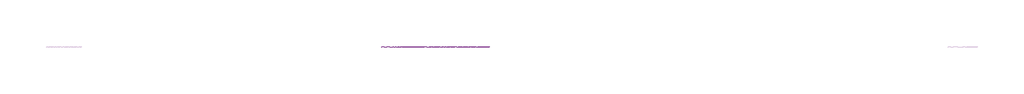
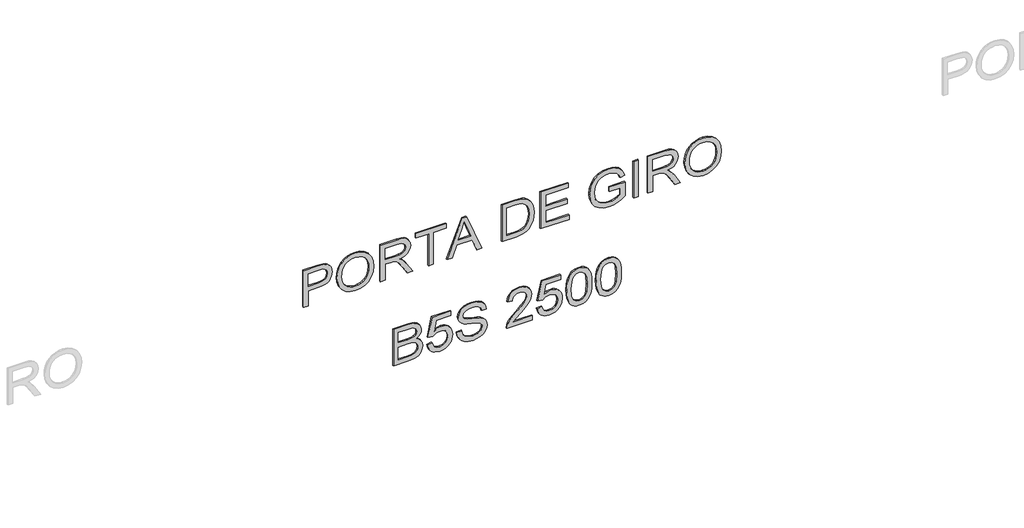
# One storey, part 4 of 13: 1 proxy.
"""IFC4 building model written with IfcOpenShell, lengths in millimetres."""

from ifc_helpers import new_model, si_unit, frame, origin, place, context, project, spatial, polyline, outline, extrude, element, save

model = new_model("IFC4")

# Units and contexts
model_context = context("Model", 3, world=origin())
ifc_project = project(units=[si_unit("LENGTHUNIT", "METRE", prefix="MILLI")], contexts=[model_context])

# Site, building, storey
site = spatial("IfcSite", under=ifc_project)
building = spatial("IfcBuilding", under=site)
storey = spatial("IfcBuildingStorey", under=building, Name="02 - Marelli - Planta Baixa - Portas", Elevation=-12000.0)

# Proxy
placement = place(None, origin())
element("IfcBuildingElementProxy", 1, Name="300mm Arial", ObjectType="300mm Arial", at=placement, inside=storey, context=model_context, shape_type="SweptSolid", body=[
    extrude(outline(polyline([(-6049.0625952, 17248.0968395), (-6049.0625952, 17285.7679558), (-5926.6314672, 17285.7679558), (-5926.6314672, 17362.3609872), (-5924.9668012, 17391.5593213), (-5919.9728031, 17415.8786204), (-5911.6494729, 17435.3188846), (-5899.9968107, 17449.8801138), (-5885.93912, 17460.4866116), (-5870.4007042, 17468.0626814), (-5853.3815634, 17472.6083233), (-5834.8816976, 17474.1235373), (-5813.4249802, 17471.8794571), (-5793.7892787, 17465.1472166), (-5777.1426184, 17454.7269591), (-5764.6530247, 17441.4188279), (-5755.9250244, 17424.8917293), (-5750.5631443, 17404.8145694), (-5747.6936647, 17359.7858132), (-5747.6936647, 17248.0968395), (-6049.0625952, 17248.0968395)]), holes=[polyline([(-5888.9603509, 17285.7679558), (-5785.364781, 17285.7679558), (-5785.364781, 17363.6853623), (-5787.939955, 17401.3564786), (-5794.2675253, 17415.5843148), (-5805.0096796, 17426.7771245), (-5819.283501, 17434.0335969), (-5836.2060728, 17436.452421), (-5858.4813276, 17432.3505367), (-5875.1279879, 17420.044884), (-5885.5022601, 17397.9719643), (-5888.9603509, 17364.5682791), (-5888.9603509, 17285.7679558)])]), frame((0.0, 8778.3159498, 0.0), z_axis=(0.0, 1.0, 0.0), x_axis=(0.0, 0.0, 1.0)), (0.0, 0.0, 1.0), 10.0),
    extrude(outline(polyline([(-5902.3512555, 17511.7946536), (-5940.8960916, 17516.0988729), (-5977.3623943, 17529.011531), (-6009.0554282, 17550.2751103), (-6033.2804576, 17579.6320935), (-6048.6487279, 17615.2798588), (-6053.7714847, 17655.4157845), (-6049.1361716, 17693.2248566), (-6035.2302322, 17728.3667842), (-6012.3111839, 17758.3307727), (-5980.6365441, 17780.6060275), (-5942.1744815, 17794.4291934), (-5898.8931648, 17799.0369154), (-5856.1820651, 17794.6591197), (-5818.2534314, 17781.5257325), (-5786.6339739, 17760.0414239), (-5762.8504029, 17730.6108643), (-5747.9511821, 17695.1654341), (-5742.9847752, 17655.6365137), (-5745.628927, 17625.3460299), (-5753.5613826, 17597.971011), (-5766.7821418, 17573.5114568), (-5785.2912046, 17551.9673675), (-5808.4723689, 17534.3918051), (-5835.7094321, 17521.8378321), (-5867.0023943, 17514.3054482), (-5902.3512555, 17511.7946536)]), holes=[polyline([(-5902.7191375, 17549.4657699), (-5872.1826326, 17551.4293401), (-5846.3504188, 17557.3200505), (-5825.222496, 17567.1379012), (-5808.7988641, 17580.8828923), (-5796.4863136, 17597.3502101), (-5787.6916347, 17615.3350411), (-5782.4148273, 17634.8373854), (-5780.6558915, 17655.8572429), (-5784.3071203, 17685.0210881), (-5795.2608067, 17711.1499068), (-5812.8547631, 17732.8089592), (-5836.426802, 17748.5635057), (-5865.2503563, 17758.1652258), (-5898.5988592, 17761.3657991), (-5925.1369466, 17759.4964987), (-5948.4652636, 17753.8885976), (-5968.5838102, 17744.5420956), (-5985.4925864, 17731.4569929), (-5998.883491, 17715.4748195), (-6008.4484229, 17697.4371054), (-6014.187382, 17677.3438507), (-6016.1003684, 17655.1950553), (-6014.2057761, 17633.4187405), (-6008.5219993, 17613.5600105), (-5999.0490379, 17595.6188655), (-5985.786892, 17579.5953053), (-5969.2276037, 17566.4136336), (-5949.8632152, 17556.9981538), (-5927.6937264, 17551.3488659), (-5902.7191375, 17549.4657699)])]), frame((0.0, 8778.3159498, 0.0), z_axis=(0.0, 1.0, 0.0), x_axis=(0.0, 0.0, 1.0)), (0.0, 0.0, 1.0), 10.0),
    extrude(outline(polyline([(-6049.0625952, 17850.8347003), (-6049.0625952, 17888.5058167), (-5917.2136881, 17888.5058167), (-5917.2136881, 17933.9760313), (-5918.5380633, 17955.8282218), (-5925.7117622, 17973.7440749), (-5945.2462961, 17993.6464909), (-5986.5962324, 18021.9734045), (-6049.0625952, 18061.1896252), (-6049.0625952, 18104.9675826), (-5967.3927923, 18054.7149021), (-5928.61803, 18024.1806965), (-5912.5047986, 18002.7699644), (-5902.5168024, 18039.8800606), (-5894.5015734, 18054.2619474), (-5884.4721905, 18065.8617265), (-5859.8608851, 18081.1748146), (-5830.1728081, 18086.2791773), (-5806.3064636, 18083.1981656), (-5784.5922289, 18073.9551304), (-5767.0810459, 18059.5525503), (-5755.8238568, 18040.9929037), (-5749.7262128, 18015.5998489), (-5747.6936647, 17980.6970446), (-5747.6936647, 17850.8347003), (-6049.0625952, 17850.8347003)]), holes=[polyline([(-5879.5425718, 17888.5058167), (-5785.364781, 17888.5058167), (-5785.364781, 17982.3157254), (-5788.6205367, 18012.1233641), (-5798.3878037, 18032.6787706), (-5813.195054, 18044.6257384), (-5831.5707596, 18048.608061), (-5844.8788908, 18046.5203306), (-5857.1385583, 18040.2571397), (-5867.2737073, 18029.9748379), (-5874.2082829, 18015.8297752), (-5878.2089996, 17997.0402023), (-5879.5425718, 17972.82437), (-5879.5425718, 17888.5058167)])]), frame((0.0, 8778.3159498, 0.0), z_axis=(0.0, 1.0, 0.0), x_axis=(0.0, 0.0, 1.0)), (0.0, 0.0, 1.0), 10.0),
    extrude(outline(polyline([(-6049.0625952, 18227.5458634), (-6049.0625952, 18265.2169797), (-5785.364781, 18265.2169797), (-5785.364781, 18364.10366), (-5747.6936647, 18364.10366), (-5747.6936647, 18128.6591831), (-5785.364781, 18128.6591831), (-5785.364781, 18227.5458634), (-6049.0625952, 18227.5458634)])), frame((0.0, 8778.3159498, 0.0), z_axis=(0.0, 1.0, 0.0), x_axis=(0.0, 0.0, 1.0)), (0.0, 0.0, 1.0), 10.0),
    extrude(outline(polyline([(-6049.0625952, 18371.3877235), (-6049.0625952, 18411.1925554), (-5954.8848044, 18445.6263102), (-5954.8848044, 18569.7496953), (-6049.0625952, 18604.2570265), (-6049.0625952, 18644.0618583), (-5747.6936647, 18523.7644459), (-5747.6936647, 18491.6851359), (-6049.0625952, 18371.3877235)]), holes=[polyline([(-5917.2136881, 18459.4586732), (-5836.6475312, 18488.9628092), (-5785.364781, 18507.7247909), (-5843.1222543, 18528.8412175), (-5917.2136881, 18555.9909087), (-5917.2136881, 18459.4586732)])]), frame((0.0, 8778.3159498, 0.0), z_axis=(0.0, 1.0, 0.0), x_axis=(0.0, 0.0, 1.0)), (0.0, 0.0, 1.0), 10.0),
    extrude(outline(polyline([(-6049.0625952, 18802.0303871), (-6049.0625952, 18910.9970341), (-6043.9122473, 18959.4470928), (-6037.5570858, 18978.9908238), (-6028.7922972, 18995.4627401), (-6016.9740882, 19009.810138), (-6001.458665, 19022.9803134), (-5981.8045694, 19034.4214434), (-5957.570343, 19043.5817051), (-5929.1054736, 19049.5965757), (-5896.7594492, 19051.6015326), (-5858.6836627, 19048.6400825), (-5825.0960365, 19039.7557324), (-5796.5483937, 19024.9116939), (-5773.5925572, 19004.0711788), (-5760.4039877, 18983.8008809), (-5752.0346723, 18959.7781866), (-5747.6936647, 18905.9938389), (-5747.6936647, 18802.0303871), (-6049.0625952, 18802.0303871)]), holes=[polyline([(-6011.3914789, 18839.7015034), (-5785.364781, 18839.7015034), (-5785.364781, 18905.3316513), (-5786.8730972, 18937.0798675), (-5791.3980458, 18958.748117), (-5803.97961, 18980.0392875), (-5824.8017309, 18997.8539731), (-5855.1152073, 19009.9113055), (-5896.170838, 19013.9304163), (-5927.155699, 19011.8794742), (-5953.155759, 19005.7266478), (-5974.2629885, 18995.8950015), (-5990.5693579, 18982.8075995), (-5999.3801317, 18970.6307055), (-6005.9468253, 18954.8485679), (-6010.0303155, 18933.9344764), (-6011.3914789, 18906.3617209), (-6011.3914789, 18839.7015034)])]), frame((0.0, 8778.3159498, 0.0), z_axis=(0.0, 1.0, 0.0), x_axis=(0.0, 0.0, 1.0)), (0.0, 0.0, 1.0), 10.0),
    extrude(outline(polyline([(-6049.0625952, 19103.3993175), (-6049.0625952, 19324.7171258), (-6011.3914789, 19324.7171258), (-6011.3914789, 19141.0704338), (-5912.5047986, 19141.0704338), (-5912.5047986, 19310.5904572), (-5874.8336823, 19310.5904572), (-5874.8336823, 19141.0704338), (-5785.364781, 19141.0704338), (-5785.364781, 19320.0082363), (-5747.6936647, 19320.0082363), (-5747.6936647, 19103.3993175), (-6049.0625952, 19103.3993175)])), frame((0.0, 8778.3159498, 0.0), z_axis=(0.0, 1.0, 0.0), x_axis=(0.0, 0.0, 1.0)), (0.0, 0.0, 1.0), 10.0),
    extrude(outline(polyline([(-5931.3403567, 19640.2127249), (-5931.3403567, 19724.9727366), (-5985.786892, 19724.9727366), (-5996.4278787, 19708.9238845), (-6006.4250719, 19686.8233737), (-6013.6815443, 19661.3751367), (-6016.1003684, 19635.2831062), (-6012.890598, 19605.7329849), (-6003.2612868, 19577.8567267), (-5987.0192967, 19554.0363675), (-5963.9714897, 19536.6539432), (-5934.3293979, 19526.0313506), (-5898.3045536, 19522.4904864), (-5867.586407, 19525.4335424), (-5839.1491287, 19534.2627103), (-5810.1232393, 19553.6500914), (-5798.1854686, 19568.0894597), (-5788.7860836, 19586.4651654), (-5782.6884395, 19608.694435), (-5780.6558915, 19634.694495), (-5782.5412867, 19656.9053704), (-5788.1974724, 19677.0377126), (-5796.9898521, 19693.9234962), (-5808.2838293, 19706.3946958), (-5823.2658236, 19715.8216719), (-5843.1222543, 19723.574785), (-5833.3365932, 19758.3028453), (-5805.4971232, 19748.7103223), (-5783.4885829, 19735.5309498), (-5766.4924347, 19717.7162642), (-5753.6901413, 19694.2178018), (-5745.6611167, 19666.3139524), (-5742.9847752, 19635.2831062), (-5747.6016942, 19593.0134649), (-5761.4524514, 19555.967748), (-5784.803761, 19525.553104), (-5817.9223376, 19503.1766817), (-5857.4052727, 19489.408698), (-5899.8496579, 19484.8193701), (-5941.9905405, 19489.4270921), (-5979.9743565, 19503.2502581), (-6011.6397992, 19526.1141241), (-6034.825562, 19557.8439462), (-6049.035004, 19596.0392943), (-6053.7714847, 19638.2997385), (-6050.7916406, 19670.6457629), (-6041.8521081, 19702.2008411), (-6027.0080696, 19732.8913965), (-6006.3147073, 19762.6438529), (-5893.6692404, 19762.6438529), (-5893.6692404, 19640.2127249), (-5931.3403567, 19640.2127249)])), frame((0.0, 8778.3159498, 0.0), z_axis=(0.0, 1.0, 0.0), x_axis=(0.0, 0.0, 1.0)), (0.0, 0.0, 1.0), 10.0),
    extrude(outline(polyline([(19866.2394227, 8778.3159498), (19828.5683064, 8778.3159498), (19828.5683064, 8788.3159498), (19866.2394227, 8788.3159498), (19866.2394227, 8778.3159498)])), frame((0.0, 0.0, -6049.0625952), z_axis=(0.0, 0.0, 1.0), x_axis=(1.0, 0.0, 0.0)), (0.0, 0.0, 1.0), 301.3689304),
    extrude(outline(polyline([(-6049.0625952, 19941.5816553), (-6049.0625952, 19979.2527716), (-5917.2136881, 19979.2527716), (-5917.2136881, 20024.7229862), (-5918.5380633, 20046.5751768), (-5925.7117622, 20064.4910299), (-5945.2462961, 20084.3934459), (-5986.5962324, 20112.7203595), (-6049.0625952, 20151.9365802), (-6049.0625952, 20195.7145376), (-5967.3927923, 20145.4618571), (-5928.61803, 20114.9276515), (-5912.5047986, 20093.5169193), (-5902.5168024, 20130.6270156), (-5894.5015734, 20145.0089024), (-5884.4721905, 20156.6086815), (-5859.8608851, 20171.9217696), (-5830.1728081, 20177.0261323), (-5806.3064636, 20173.9451205), (-5784.5922289, 20164.7020854), (-5767.0810459, 20150.2995053), (-5755.8238568, 20131.7398586), (-5749.7262128, 20106.3468039), (-5747.6936647, 20071.4439996), (-5747.6936647, 19941.5816553), (-6049.0625952, 19941.5816553)]), holes=[polyline([(-5879.5425718, 19979.2527716), (-5785.364781, 19979.2527716), (-5785.364781, 20073.0626804), (-5788.6205367, 20102.8703191), (-5798.3878037, 20123.4257256), (-5813.195054, 20135.3726933), (-5831.5707596, 20139.3550159), (-5844.8788908, 20137.2672856), (-5857.1385583, 20131.0040947), (-5867.2737073, 20120.7217929), (-5874.2082829, 20106.5767302), (-5878.2089996, 20087.7871573), (-5879.5425718, 20063.5713249), (-5879.5425718, 19979.2527716)])]), frame((0.0, 8778.3159498, 0.0), z_axis=(0.0, 1.0, 0.0), x_axis=(0.0, 0.0, 1.0)), (0.0, 0.0, 1.0), 10.0),
    extrude(outline(polyline([(-5902.3512555, 20228.8239172), (-5940.8960916, 20233.1281365), (-5977.3623943, 20246.0407945), (-6009.0554282, 20267.3043739), (-6033.2804576, 20296.6613571), (-6048.6487279, 20332.3091224), (-6053.7714847, 20372.4450481), (-6049.1361716, 20410.2541201), (-6035.2302322, 20445.3960477), (-6012.3111839, 20475.3600362), (-5980.6365441, 20497.635291), (-5942.1744815, 20511.458457), (-5898.8931648, 20516.066179), (-5856.1820651, 20511.6883833), (-5818.2534314, 20498.554996), (-5786.6339739, 20477.0706875), (-5762.8504029, 20447.6401279), (-5747.9511821, 20412.1946977), (-5742.9847752, 20372.6657773), (-5745.628927, 20342.3752935), (-5753.5613826, 20315.0002745), (-5766.7821418, 20290.5407204), (-5785.2912046, 20268.996631), (-5808.4723689, 20251.4210687), (-5835.7094321, 20238.8670956), (-5867.0023943, 20231.3347118), (-5902.3512555, 20228.8239172)]), holes=[polyline([(-5902.7191375, 20266.4950335), (-5872.1826326, 20268.4586036), (-5846.3504188, 20274.3493141), (-5825.222496, 20284.1671648), (-5808.7988641, 20297.9121559), (-5796.4863136, 20314.3794737), (-5787.6916347, 20332.3643047), (-5782.4148273, 20351.866649), (-5780.6558915, 20372.8865065), (-5784.3071203, 20402.0503517), (-5795.2608067, 20428.1791704), (-5812.8547631, 20449.8382228), (-5836.426802, 20465.5927693), (-5865.2503563, 20475.1944893), (-5898.5988592, 20478.3950627), (-5925.1369466, 20476.5257623), (-5948.4652636, 20470.9178611), (-5968.5838102, 20461.5713592), (-5985.4925864, 20448.4862565), (-5998.883491, 20432.5040831), (-6008.4484229, 20414.466369), (-6014.187382, 20394.3731143), (-6016.1003684, 20372.2243189), (-6014.2057761, 20350.448004), (-6008.5219993, 20330.5892741), (-5999.0490379, 20312.648129), (-5985.786892, 20296.6245689), (-5969.2276037, 20283.4428971), (-5949.8632152, 20274.0274173), (-5927.6937264, 20268.3781294), (-5902.7191375, 20266.4950335)])]), frame((0.0, 8778.3159498, 0.0), z_axis=(0.0, 1.0, 0.0), x_axis=(0.0, 0.0, 1.0)), (0.0, 0.0, 1.0), 10.0),
    extrude(outline(polyline([(-6780.9115023, 17954.4302702), (-6780.9115023, 18068.5472651), (-6775.7243661, 18116.8501711), (-6769.3048253, 18134.8855859), (-6760.4204751, 18149.6284568), (-6748.1516106, 18161.6673951), (-6731.5785267, 18171.5910119), (-6712.089978, 18178.240479), (-6691.074719, 18180.456968), (-6665.8564083, 18177.2104094), (-6644.2065528, 18167.4707336), (-6627.2471929, 18151.6977931), (-6616.1003684, 18130.3514403), (-6604.3557357, 18148.2213082), (-6589.4289238, 18160.9224341), (-6572.3683962, 18168.5100002), (-6554.2226168, 18171.039189), (-6534.5041419, 18168.0317536), (-6515.6685837, 18159.0094477), (-6499.6565199, 18144.680444), (-6488.4085279, 18125.7529153), (-6481.7590608, 18101.0588364), (-6479.5425718, 18069.4301819), (-6479.5425718, 17954.4302702), (-6780.9115023, 17954.4302702)]), holes=[polyline([(-6743.2403859, 17992.1013865), (-6639.6448161, 17992.1013865), (-6639.6448161, 18065.6777855), (-6640.9048119, 18092.50558), (-6644.6847994, 18112.2148579), (-6651.5733898, 18126.1299944), (-6662.1591942, 18135.5753646), (-6675.6972516, 18140.9832299), (-6691.442601, 18142.7858517), (-6704.9990525, 18141.2499444), (-6716.8264587, 18136.6422224), (-6733.5650895, 18120.9704494), (-6741.768858, 18097.3156371), (-6743.2403859, 18069.3566055), (-6743.2403859, 17992.1013865)]), polyline([(-6601.9736998, 17992.1013865), (-6517.2136881, 17992.1013865), (-6517.2136881, 18055.6713953), (-6521.1500255, 18104.0846658), (-6526.7510288, 18116.5742596), (-6535.6813643, 18125.7897035), (-6547.1224943, 18131.4734804), (-6560.2558815, 18133.3680726), (-6573.7847419, 18131.3355246), (-6584.7936106, 18125.2378806), (-6593.153729, 18115.1303227), (-6598.7363382, 18101.0680335), (-6601.9736998, 18060.8953196), (-6601.9736998, 17992.1013865)])]), frame((0.0, 8778.3159498, 0.0), z_axis=(0.0, 1.0, 0.0), x_axis=(0.0, 0.0, 1.0)), (0.0, 0.0, 1.0), 10.0),
    extrude(outline(polyline([(-6700.8603801, 18218.1280843), (-6735.4136965, 18227.3159372), (-6749.8553641, 18236.0416382), (-6762.4070379, 18247.5218557), (-6772.5628802, 18261.3197298), (-6779.8170533, 18276.9984006), (-6785.6203918, 18313.9981323), (-6783.362516, 18337.4873977), (-6776.5888888, 18358.3647009), (-6765.2995101, 18376.630042), (-6749.4943799, 18392.2834209), (-6734.0617302, 18402.6163064), (-6717.2679171, 18409.9969389), (-6679.5968008, 18415.9014449), (-6659.3356999, 18414.2620708), (-6641.0059795, 18409.3439484), (-6624.6076396, 18401.1470777), (-6610.1406801, 18389.6714587), (-6598.3270695, 18375.8092053), (-6589.8887763, 18360.4524312), (-6584.8258003, 18343.6011366), (-6583.1381416, 18325.2553213), (-6588.5827952, 18297.0571664), (-6604.9167558, 18270.1465985), (-6521.9225776, 18286.2598298), (-6521.9225776, 18401.7747763), (-6484.2514613, 18401.7747763), (-6484.2514613, 18255.7992006), (-6639.6448161, 18222.8369739), (-6644.3537056, 18260.5080902), (-6627.3575575, 18281.6613049), (-6622.4463328, 18296.4593582), (-6620.809258, 18314.7338963), (-6624.9111422, 18342.6285486), (-6637.2167949, 18362.448191), (-6656.6041761, 18374.2847942), (-6681.9512456, 18378.2303286), (-6708.8710105, 18374.0180798), (-6729.8862695, 18361.3813333), (-6743.433524, 18341.1478235), (-6747.9492755, 18314.1452851), (-6744.7027169, 18291.9436067), (-6734.9630411, 18274.7819116), (-6718.7670362, 18262.7153821), (-6696.1514906, 18255.7992006), (-6700.8603801, 18218.1280843)])), frame((0.0, 8778.3159498, 0.0), z_axis=(0.0, 1.0, 0.0), x_axis=(0.0, 0.0, 1.0)), (0.0, 0.0, 1.0), 10.0),
    extrude(outline(polyline([(-6677.3159324, 18448.8636717), (-6707.7397734, 18453.333438), (-6734.8526765, 18465.1240559), (-6757.1095372, 18483.4905645), (-6772.9652512, 18507.6880027), (-6782.4566066, 18538.0658585), (-6785.6203918, 18574.9736197), (-6782.6865329, 18605.0387757), (-6773.8849561, 18631.9585407), (-6759.7950757, 18654.3441601), (-6740.9963058, 18670.8068794), (-6719.1533123, 18680.9328313), (-6695.9307614, 18684.3081486), (-6673.2140482, 18681.3742897), (-6653.3300263, 18672.572713), (-6636.4626368, 18657.5907187), (-6622.7958207, 18636.1156073), (-6613.9850469, 18610.989267), (-6603.8866862, 18569.4553897), (-6593.2548965, 18529.2090995), (-6582.8438361, 18507.9455201), (-6571.2003709, 18498.9508054), (-6556.7242144, 18495.9525671), (-6539.7464603, 18500.18321), (-6525.4542448, 18512.8751389), (-6515.7421601, 18534.8192999), (-6512.5047986, 18566.8066394), (-6515.7789483, 18598.0582149), (-6525.6013976, 18620.5909871), (-6541.8249936, 18635.0119613), (-6564.3025835, 18641.9281428), (-6564.3025835, 18679.5992591), (-6539.3417901, 18675.350222), (-6517.1401117, 18664.6632501), (-6498.8379825, 18647.7774665), (-6485.5758365, 18624.9319946), (-6477.5192208, 18597.1201158), (-6474.8336823, 18565.3351114), (-6477.3996592, 18535.9965223), (-6485.0975899, 18509.4906245), (-6497.7527306, 18487.4085078), (-6515.1903371, 18471.3412616), (-6535.7641377, 18461.5464035), (-6557.8278604, 18458.2814508), (-6577.5647294, 18460.9210041), (-6595.2782475, 18468.839664), (-6610.6373208, 18482.1294011), (-6623.3108555, 18500.8821858), (-6632.3699497, 18523.9207958), (-6641.8888963, 18559.9272461), (-6656.2730823, 18614.7784515), (-6664.0813776, 18630.8548947), (-6673.3795951, 18640.3830384), (-6684.2780992, 18645.0735338), (-6696.8872546, 18646.6370323), (-6709.8275037, 18644.549302), (-6722.1607476, 18638.286111), (-6732.9029019, 18627.7554889), (-6741.0698822, 18612.8654652), (-6746.2294272, 18594.4897595), (-6747.9492755, 18573.5020917), (-6745.6776042, 18549.6633384), (-6738.8625902, 18528.3261827), (-6728.3595592, 18510.870182), (-6715.0238369, 18498.6748939), (-6698.2208268, 18490.8574015), (-6677.3159324, 18486.534788), (-6677.3159324, 18448.8636717)])), frame((0.0, 8778.3159498, 0.0), z_axis=(0.0, 1.0, 0.0), x_axis=(0.0, 0.0, 1.0)), (0.0, 0.0, 1.0), 10.0),
    extrude(outline(polyline([(-6743.2403859, 19037.474864), (-6743.2403859, 18889.5127255), (-6724.073734, 18906.5088737), (-6687.8373575, 18949.8453727), (-6658.8206651, 18982.5408851), (-6636.2235136, 19003.8136614), (-6617.2959849, 19017.1585808), (-6599.2881612, 19026.0705221), (-6581.5838402, 19031.0921114), (-6563.5668195, 19032.7659745), (-6546.4143215, 19031.2139723), (-6530.7149573, 19026.5579658), (-6516.4687271, 19018.7979549), (-6503.6756307, 19007.9339398), (-6493.1174174, 18994.4073787), (-6485.5758365, 18978.65973), (-6481.050888, 18960.6909938), (-6479.5425718, 18940.5011701), (-6484.9688312, 18902.6185216), (-6491.7516555, 18886.8846685), (-6501.2476095, 18873.2891295), (-6513.3279345, 18862.0894221), (-6527.8638719, 18853.5430635), (-6564.3025835, 18844.4103929), (-6569.011473, 18882.0815092), (-6547.3616176, 18886.1558023), (-6530.9724747, 18897.9372232), (-6520.6533848, 18916.1933672), (-6517.2136881, 18939.6918297), (-6520.7361582, 18962.068252), (-6531.3035685, 18979.7541789), (-6546.9845386, 18991.2596883), (-6565.8476879, 18995.0948581), (-6586.890538, 18991.0297621), (-6608.5219993, 18978.834474), (-6635.1750499, 18954.4438977), (-6671.2826677, 18913.7929372), (-6694.3396717, 18886.2937581), (-6714.9502605, 18866.6304654), (-6734.6411443, 18853.0372257), (-6754.9390334, 18843.7482053), (-6780.9115023, 18839.7015034), (-6780.9115023, 19037.474864), (-6743.2403859, 19037.474864)])), frame((0.0, 8778.3159498, 0.0), z_axis=(0.0, 1.0, 0.0), x_axis=(0.0, 0.0, 1.0)), (0.0, 0.0, 1.0), 10.0),
    extrude(outline(polyline([(-6700.8603801, 19075.1459803), (-6735.4136965, 19084.3338331), (-6749.8553641, 19093.0595342), (-6762.4070379, 19104.5397517), (-6772.5628802, 19118.3376258), (-6779.8170533, 19134.0162966), (-6785.6203918, 19171.0160282), (-6783.362516, 19194.5052936), (-6776.5888888, 19215.3825969), (-6765.2995101, 19233.6479379), (-6749.4943799, 19249.3013168), (-6734.0617302, 19259.6342024), (-6717.2679171, 19267.0148349), (-6679.5968008, 19272.9193409), (-6659.3356999, 19271.2799668), (-6641.0059795, 19266.3618443), (-6624.6076396, 19258.1649736), (-6610.1406801, 19246.6893546), (-6598.3270695, 19232.8271012), (-6589.8887763, 19217.4703272), (-6584.8258003, 19200.6190325), (-6583.1381416, 19182.2732173), (-6588.5827952, 19154.0750624), (-6604.9167558, 19127.1644944), (-6521.9225776, 19143.2777258), (-6521.9225776, 19258.7926723), (-6484.2514613, 19258.7926723), (-6484.2514613, 19112.8170966), (-6639.6448161, 19079.8548698), (-6644.3537056, 19117.5259861), (-6627.3575575, 19138.6792009), (-6622.4463328, 19153.4772541), (-6620.809258, 19171.7517922), (-6624.9111422, 19199.6464445), (-6637.2167949, 19219.466087), (-6656.6041761, 19231.3026902), (-6681.9512456, 19235.2482246), (-6708.8710105, 19231.0359758), (-6729.8862695, 19218.3992292), (-6743.433524, 19198.1657195), (-6747.9492755, 19171.163181), (-6744.7027169, 19148.9615026), (-6734.9630411, 19131.7998076), (-6718.7670362, 19119.7332781), (-6696.1514906, 19112.8170966), (-6700.8603801, 19075.1459803)])), frame((0.0, 8778.3159498, 0.0), z_axis=(0.0, 1.0, 0.0), x_axis=(0.0, 0.0, 1.0)), (0.0, 0.0, 1.0), 10.0),
    extrude(outline(polyline([(-6632.6550582, 19305.8815677), (-6672.0966066, 19307.7577658), (-6705.9555457, 19313.3863604), (-6734.2318756, 19322.7673513), (-6756.9255962, 19335.9007385), (-6769.4795693, 19349.5859487), (-6778.4466929, 19365.6256037), (-6783.8269671, 19384.0197034), (-6785.6203918, 19404.768248), (-6781.4909164, 19435.2196801), (-6769.1024902, 19459.9137591), (-6748.3171575, 19479.0160317), (-6718.9969625, 19492.6920448), (-6680.6176733, 19500.9142074), (-6632.6550582, 19503.6549283), (-6592.6938765, 19501.944277), (-6561.8377741, 19496.8123232), (-6537.5391683, 19488.9764367), (-6517.2504763, 19479.1539874), (-6501.1096538, 19466.1493589), (-6489.2546565, 19448.7669346), (-6481.970593, 19427.9816019), (-6479.5425718, 19404.768248), (-6483.6444561, 19374.4823627), (-6495.9501088, 19349.8434661), (-6516.6526681, 19330.7136023), (-6545.9452719, 19316.9548157), (-6584.4165316, 19308.6498797), (-6632.6550582, 19305.8815677)]), holes=[polyline([(-6632.5814818, 19343.552684), (-6574.0882446, 19348.1144207), (-6553.0086062, 19353.8165916), (-6537.3736214, 19361.7996309), (-6522.2536714, 19380.7455537), (-6517.2136881, 19404.3267896), (-6522.9342531, 19429.2324007), (-6540.0959482, 19448.9140874), (-6554.4571416, 19456.3820919), (-6574.6584617, 19461.7163808), (-6632.5814818, 19465.983812), (-6691.7461037, 19461.569228), (-6712.0095038, 19456.0509981), (-6726.0602968, 19448.3254762), (-6742.4770308, 19428.6070013), (-6747.9492755, 19404.768248), (-6742.4954249, 19380.9294947), (-6726.1338732, 19361.2110197), (-6712.1060728, 19353.4854978), (-6691.8380742, 19347.9672679), (-6632.5814818, 19343.552684)])]), frame((0.0, 8778.3159498, 0.0), z_axis=(0.0, 1.0, 0.0), x_axis=(0.0, 0.0, 1.0)), (0.0, 0.0, 1.0), 10.0),
    extrude(outline(polyline([(-6632.6550582, 19536.617155), (-6672.0966066, 19538.4933532), (-6705.9555457, 19544.1219477), (-6734.2318756, 19553.5029386), (-6756.9255962, 19566.6363259), (-6769.4795693, 19580.3215361), (-6778.4466929, 19596.3611911), (-6783.8269671, 19614.7552908), (-6785.6203918, 19635.5038354), (-6781.4909164, 19665.9552675), (-6769.1024902, 19690.6493464), (-6748.3171575, 19709.751619), (-6718.9969625, 19723.4276322), (-6680.6176733, 19731.6497948), (-6632.6550582, 19734.3905157), (-6592.6938765, 19732.6798644), (-6561.8377741, 19727.5479105), (-6537.5391683, 19719.712024), (-6517.2504763, 19709.8895748), (-6501.1096538, 19696.8849462), (-6489.2546565, 19679.502522), (-6481.970593, 19658.7171892), (-6479.5425718, 19635.5038354), (-6483.6444561, 19605.2179501), (-6495.9501088, 19580.5790535), (-6516.6526681, 19561.4491897), (-6545.9452719, 19547.6904031), (-6584.4165316, 19539.3854671), (-6632.6550582, 19536.617155)]), holes=[polyline([(-6632.5814818, 19574.2882714), (-6574.0882446, 19578.8500081), (-6553.0086062, 19584.552179), (-6537.3736214, 19592.5352183), (-6522.2536714, 19611.4811411), (-6517.2136881, 19635.062377), (-6522.9342531, 19659.967988), (-6540.0959482, 19679.6496748), (-6554.4571416, 19687.1176793), (-6574.6584617, 19692.4519682), (-6632.5814818, 19696.7193993), (-6691.7461037, 19692.3048154), (-6712.0095038, 19686.7865855), (-6726.0602968, 19679.0610636), (-6742.4770308, 19659.3425886), (-6747.9492755, 19635.5038354), (-6742.4954249, 19611.6650821), (-6726.1338732, 19591.9466071), (-6712.1060728, 19584.2210852), (-6691.8380742, 19578.7028553), (-6632.5814818, 19574.2882714)])]), frame((0.0, 8778.3159498, 0.0), z_axis=(0.0, 1.0, 0.0), x_axis=(0.0, 0.0, 1.0)), (0.0, 0.0, 1.0), 10.0),
])

save(model, "model.ifc")
